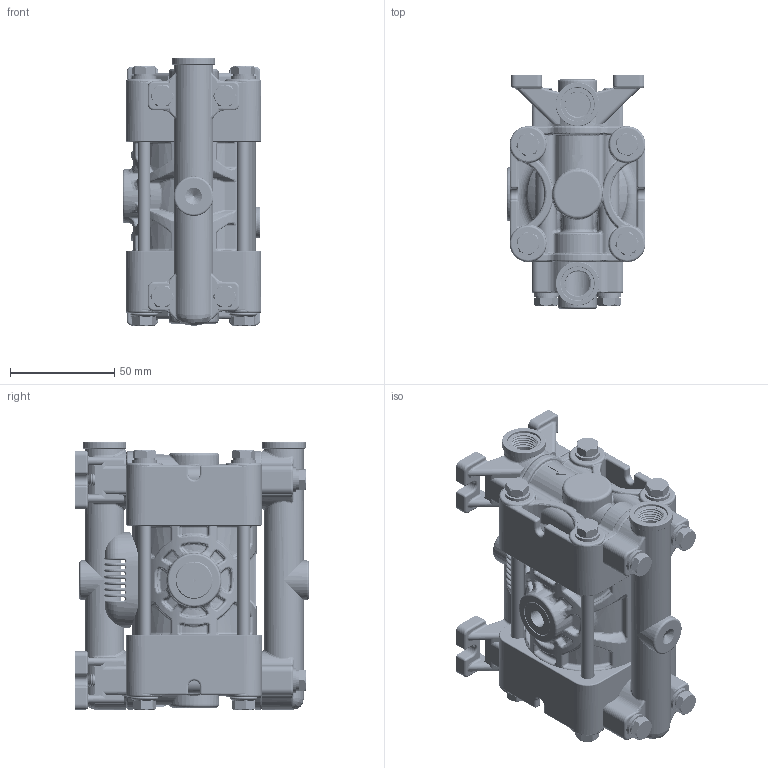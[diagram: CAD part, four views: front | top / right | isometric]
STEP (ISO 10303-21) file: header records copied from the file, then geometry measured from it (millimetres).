
FILE_DESCRIPTION (( 'STEP AP203' ), '1' );
FILE_NAME ('P08 PLASTICA.STEP', '2023-03-09T08:29:41', ( '' ), ( '' ), 'SwSTEP 2.0', 'SolidWorks 2022', '' );
FILE_SCHEMA (( 'CONFIG_CONTROL_DESIGN' ));
Products named in the file (1): P08  PLASTICA
Bounding box: 66.5 x 112 x 128.6 mm (x, y, z)
Volume: 290737 mm3; surface area: 155085.4 mm2
Topology: 30 solids, 30 shells, 5419 faces, 12479 edges, 6940 vertices
Faces by surface type: cylinder 1591, torus 1187, cone 852, bspline 841, plane 656, sphere 292
Entity records: 188944 total; most frequent: CARTESIAN_POINT 72424, DIRECTION 25171, ORIENTED_EDGE 24522, EDGE_CURVE 12261, AXIS2_PLACEMENT_3D 10839, VERTEX_POINT 6901, CIRCLE 6260, EDGE_LOOP 5564
